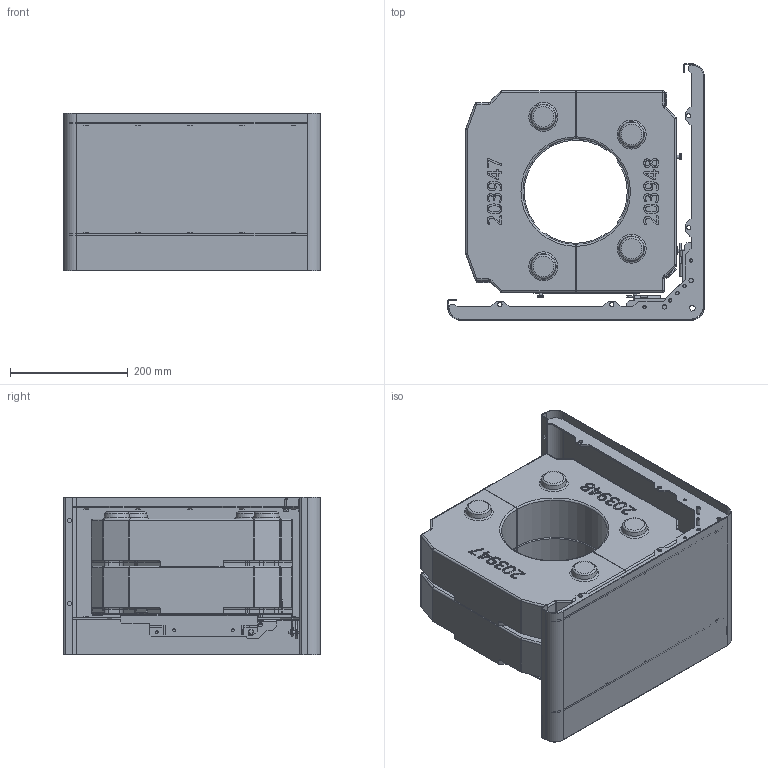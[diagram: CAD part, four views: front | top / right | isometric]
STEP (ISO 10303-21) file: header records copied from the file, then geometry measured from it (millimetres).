
FILE_DESCRIPTION(/* description */ ('Unknown'),/* implementation_level */ '2;1');
FILE_NAME(/* name */ 'Powerstone top-set C410',/* time_stamp */ '2026-04-30T13:17:17+02:00',/* author */ ('Unknown'),/* organization */ ('Unknown'),/* preprocessor_version */ 'ST-DEVELOPER v20',/* originating_system */ 'Solid Edge',/* authorisation */ 'Unknown');
FILE_SCHEMA (('MODEL_BASED_INTEGRATED_MANUFACTURING_SCHEMA','AUTOMOTIVE_DESIGN {1 0 10303 214 3 1 1}'));
Length unit declared in the file: millimetre
Products named in the file (16): DSN1131330; DSN1087844_oa_0; DSN1127429_oa_1; DSN1127005; DSN1123164; DSN1123166; DSN1123931; DSN1126533; 016710 Skruv M6SF TT M6x16 fzb; FilletWeld_1; 016548 Skruv M6SF M6x20 Svart; DSN1055289; DSN1141063; DSN1141055; DSN1139599; DSN1141247
Assembly tree (23 placements, depth 6):
  DSN1131330
    DSN1087844_oa_0
      DSN1127429_oa_1
        DSN1127005
          DSN1123164
            DSN1123166  x2
            DSN1123931
            DSN1126533
            016710 Skruv M6SF TT M6x16 fzb  x4
            FilletWeld_1
        016548 Skruv M6SF M6x20 Svart  x2
    DSN1055289  x2
    DSN1141063
      DSN1141055  x2
      DSN1139599  x2
      DSN1141247
Bounding box: 436 x 436 x 267.5 mm (x, y, z)
Volume: 15175339.3 mm3; surface area: 1558889.5 mm2
Topology: 37 solids, 37 shells, 1457 faces, 3709 edges, 2366 vertices
Faces by surface type: plane 774, cylinder 301, bspline 186, torus 120, cone 54, sphere 22
Full cylindrical faces by diameter (mm): 4.5 x6, 5 x2, 5.6 x10, 6.5 x2, 7.2 x14, 10 x2, 29 x8, 38 x1
Entity records: 36609 total; most frequent: CARTESIAN_POINT 12468, ORIENTED_EDGE 4876, DIRECTION 4515, EDGE_CURVE 2438, LINE 1711, VECTOR 1711, VERTEX_POINT 1619, AXIS2_PLACEMENT_3D 1402
